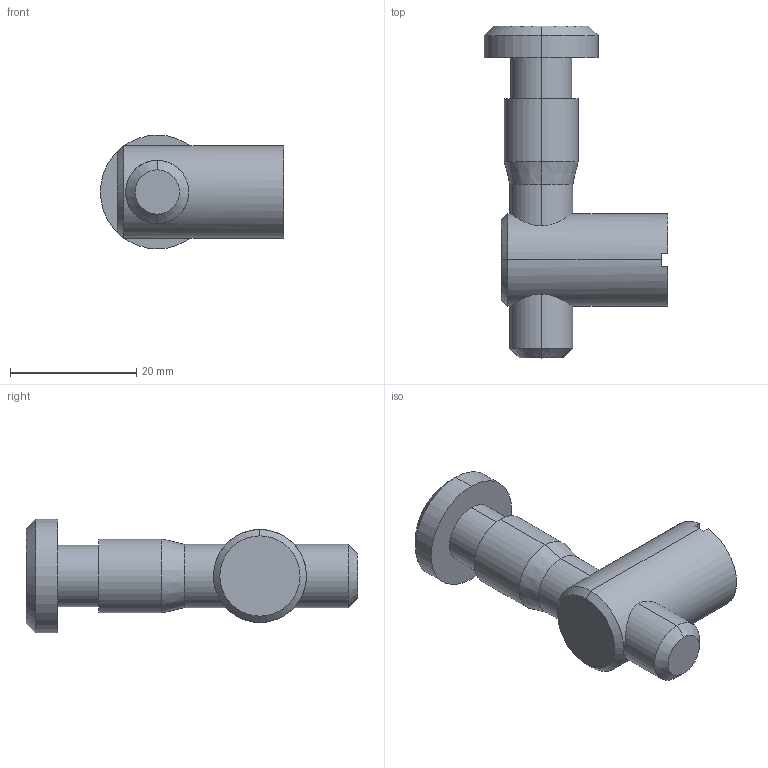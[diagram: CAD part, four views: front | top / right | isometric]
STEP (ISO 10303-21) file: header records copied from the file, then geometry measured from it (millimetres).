
FILE_DESCRIPTION (( 'STEP AP214' ), '1' );
FILE_NAME ('SNSD.30.50.13 Óãëîâîé ñîåäèíèòåëü 90 ãðàäóñîâ, ïàç 10(B45).STEP', '2014-11-17T09:46:58', ( 'XTreme.ws' ), ( 'XTreme.ws' ), 'SwSTEP 2.0', 'SolidWorks 2014', '' );
FILE_SCHEMA (( 'AUTOMOTIVE_DESIGN' ));
Length unit declared in the file: millimetre
Products named in the file (4): SNSD.30.50.48 鎔艜_00; SNSD.30.50.47 栺魛鳧_00; SNSD.30.50.46 眈錼鐻00; SNSD.30.50.13  Óãëîâîé ñîåäèíèòåëü 90 ãðàäóñîâ, ïàç 10(B45)
Assembly tree (3 placements, depth 2):
  SNSD.30.50.13  Óãëîâîé ñîåäèíèòåëü 90 ãðàäóñîâ, ïàç 10(B45)
    SNSD.30.50.46 眈錼鐻00
    SNSD.30.50.47 栺魛鳧_00
    SNSD.30.50.48 鎔艜_00
Bounding box: 29 x 52.5 x 18 mm (x, y, z)
Volume: 8302.3 mm3; surface area: 5114.8 mm2
Topology: 3 solids, 3 shells, 67 faces, 152 edges, 95 vertices
Faces by surface type: plane 28, cylinder 20, cone 17, torus 2
Entity records: 2363 total; most frequent: CARTESIAN_POINT 647, DIRECTION 337, ORIENTED_EDGE 304, EDGE_CURVE 152, AXIS2_PLACEMENT_3D 135, VERTEX_POINT 95, EDGE_LOOP 75, FACE_OUTER_BOUND 67
